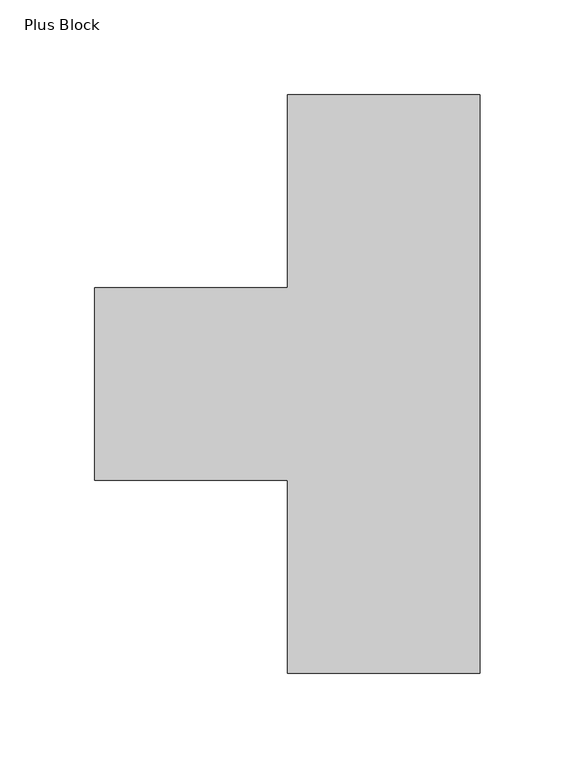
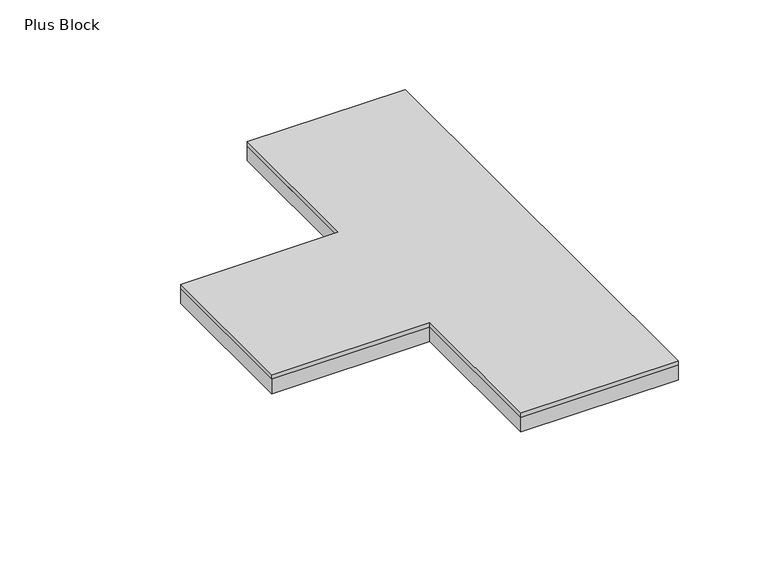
"""IFC4 building model written with IfcOpenShell, lengths in millimetres: proxy geometry, FilzFelt_Plus_Block : Plus Block."""

import ifcopenshell
import ifcopenshell.guid

model = None  # the IFC model being written
_history = None  # IfcOwnerHistory: only IFC2X3 demands one
_inside = {}  # id of a spatial element -> (the spatial element, [elements in it])
_under = {}  # id of a project, library or spatial element -> (it, [spatial elements below it])
_declared = {}  # id of a project -> (the project, [libraries it declares])
_typed = {}  # id of a type object -> (the type object, [elements of that type])
_made_of = {}  # id of a material, layer set ... -> (it, [elements and type objects made of it])


def new_model(schema):
    """Start an empty IFC model of exactly this schema.

    Asked for "IFC4X3", IfcOpenShell would pick the latest addendum, in which some entities
    have other attributes; the version numbers below select the first issue.
    IFC2X3 requires an IfcOwnerHistory on every rooted entity: one is made here for all.
    """
    global model, _history
    if schema == "IFC4X3":
        model = ifcopenshell.file(schema_version=(4, 3, 0, 0))
    else:
        model = ifcopenshell.file(schema=schema)
    _inside.clear()
    _under.clear()
    _declared.clear()
    _typed.clear()
    _made_of.clear()
    _history = None
    if model.schema == "IFC2X3":
        org = make("IfcOrganization", Name="unknown")
        user = make(
            "IfcPersonAndOrganization",
            ThePerson=make("IfcPerson", FamilyName="unknown"),
            TheOrganization=org,
        )
        app = make(
            "IfcApplication",
            ApplicationDeveloper=org,
            Version="unknown",
            ApplicationFullName="unknown",
            ApplicationIdentifier="unknown",
        )
        _history = make(
            "IfcOwnerHistory",
            OwningUser=user,
            OwningApplication=app,
            ChangeAction="ADDED",
            CreationDate=0,
        )
    return model


def make(cls, **values):
    """One entity of the class cls with the attributes given. An attribute that is None is left unset."""
    return model.create_entity(
        cls, **{name: value for name, value in values.items() if value is not None}
    )


def rooted(cls, **values):
    """An entity with a GlobalId (a new one), such as an element, a storey or a relation."""
    return make(cls, GlobalId=ifcopenshell.guid.new(), OwnerHistory=_history, **values)


def si_unit(unit_type, name, prefix=None):
    """IfcSIUnit, for example si_unit("LENGTHUNIT", "METRE", prefix="MILLI")."""
    return make("IfcSIUnit", UnitType=unit_type, Prefix=prefix, Name=name)


def assignment(units):
    """IfcUnitAssignment: the units of a project."""
    return None if units is None else make("IfcUnitAssignment", Units=units)


def point(xyz):
    """IfcCartesianPoint."""
    return None if xyz is None else make("IfcCartesianPoint", Coordinates=xyz)


def direction(xyz):
    """IfcDirection."""
    return None if xyz is None else make("IfcDirection", DirectionRatios=xyz)


def frame(location, z_axis=None, x_axis=None):
    """IfcAxis2Placement3D, a coordinate frame: its origin and axes. An axis left out is left unset."""
    return make(
        "IfcAxis2Placement3D",
        Location=point(location),
        Axis=direction(z_axis),
        RefDirection=direction(x_axis),
    )


def origin():
    """The frame at (0, 0, 0) with its axes left unset."""
    return frame((0.0, 0.0, 0.0))


def origin_with_axes():
    """The frame at (0, 0, 0) with the z axis (0, 0, 1) and the x axis (1, 0, 0) written out."""
    return frame((0.0, 0.0, 0.0), z_axis=(0.0, 0.0, 1.0), x_axis=(1.0, 0.0, 0.0))


def place(relative_to, where):
    """IfcLocalPlacement: puts the frame where relative to a parent placement (None: the world)."""
    return make(
        "IfcLocalPlacement", PlacementRelTo=relative_to, RelativePlacement=where
    )


def context(
    kind, dimensions, precision=None, world=None, true_north=None, identifier=None
):
    """IfcGeometricRepresentationContext, for example the 3D "Model" context."""
    return make(
        "IfcGeometricRepresentationContext",
        ContextIdentifier=identifier,
        ContextType=kind,
        CoordinateSpaceDimension=dimensions,
        Precision=precision,
        WorldCoordinateSystem=world,
        TrueNorth=true_north,
    )


def project(units=None, contexts=None):
    """IfcProject with its units and contexts."""
    return rooted(
        "IfcProject",
        Name="project",
        RepresentationContexts=contexts,
        UnitsInContext=assignment(units),
    )


def spatial(cls, under=None, at=None, **own):
    """A site, building, storey or space (cls), placed at a placement, below another one or the project."""
    s = rooted(cls, ObjectPlacement=at, **own)
    if under is not None:
        _under.setdefault(under.id(), (under, []))[1].append(s)
    return s


def polyline(points):
    """IfcPolyline through the points."""
    return make("IfcPolyline", Points=[point(p) for p in points])


def outline(outer, holes=None, kind="AREA"):
    """IfcArbitraryClosedProfileDef: a profile drawn as a closed curve; with holes, ...WithVoids."""
    if holes is None:
        return make("IfcArbitraryClosedProfileDef", ProfileType=kind, OuterCurve=outer)
    return make(
        "IfcArbitraryProfileDefWithVoids",
        ProfileType=kind,
        OuterCurve=outer,
        InnerCurves=holes,
    )


def extrude(swept, where, along, depth):
    """IfcExtrudedAreaSolid: the profile swept, set in the frame where, extruded along a direction by depth."""
    return make(
        "IfcExtrudedAreaSolid",
        SweptArea=swept,
        Position=where,
        ExtrudedDirection=direction(along),
        Depth=depth,
    )


def shape(context_of_items, identifier, shape_type, items):
    """IfcShapeRepresentation: the items that make up one representation, for example the "Body"."""
    return make(
        "IfcShapeRepresentation",
        ContextOfItems=context_of_items,
        RepresentationIdentifier=identifier,
        RepresentationType=shape_type,
        Items=items,
    )


def source(mapping_origin, context_of_items, identifier, shape_type, items):
    """IfcRepresentationMap: a shape defined once, which mapped items show again and again."""
    return make(
        "IfcRepresentationMap",
        MappingOrigin=mapping_origin,
        MappedRepresentation=shape(context_of_items, identifier, shape_type, items),
    )


def transform(
    local_origin,
    x_axis=None,
    y_axis=None,
    z_axis=None,
    scale=None,
    scale2=None,
    scale3=None,
    uniform=True,
):
    """IfcCartesianTransformationOperator3D, or its non-uniform kind. x_axis, y_axis, z_axis: its Axis1, 2, 3."""
    if uniform:
        return make(
            "IfcCartesianTransformationOperator3D",
            Axis1=direction(x_axis),
            Axis2=direction(y_axis),
            LocalOrigin=point(local_origin),
            Scale=scale,
            Axis3=direction(z_axis),
        )
    return make(
        "IfcCartesianTransformationOperator3DnonUniform",
        Axis1=direction(x_axis),
        Axis2=direction(y_axis),
        LocalOrigin=point(local_origin),
        Scale=scale,
        Axis3=direction(z_axis),
        Scale2=scale2,
        Scale3=scale3,
    )


def mapped(mapping_source, mapping_target):
    """IfcMappedItem: shows the shape of a source again, moved by a transform."""
    return make(
        "IfcMappedItem", MappingSource=mapping_source, MappingTarget=mapping_target
    )


def made_of(thing, what):
    """Note that an element or type object is made of a material, layer set ...; save() writes the relation."""
    if what is not None:
        _made_of.setdefault(what.id(), (what, []))[1].append(thing)
    return thing


def element(
    cls,
    number,
    at=None,
    inside=None,
    cuts=None,
    type_object=None,
    material=None,
    context=None,
    identifier="Body",
    shape_type=None,
    held_by="IfcProductDefinitionShape",
    body=None,
    shapes=None,
    **own,
):
    """One element of the class cls, such as IfcWall. Its Tag is "e" and its number.

    at: its placement. inside: the storey or other place that contains it. cuts: it is an
    opening in that element (IfcRelVoidsElement). A single representation is given by context,
    identifier, shape_type and body (its items); several are given by shapes. held_by: the class
    of the entity that holds the representations. save() writes the other relations.
    """
    e = rooted(cls, Tag="e%d" % number, ObjectPlacement=at, **own)
    if body is not None:
        shapes = [shape(context, identifier, shape_type, body)]
    if shapes is not None:
        e.Representation = make(held_by, Representations=shapes)
    if inside is not None:
        _inside.setdefault(inside.id(), (inside, []))[1].append(e)
    if cuts is not None:
        rooted(
            "IfcRelVoidsElement", RelatingBuildingElement=cuts, RelatedOpeningElement=e
        )
    if type_object is not None:
        _typed.setdefault(type_object.id(), (type_object, []))[1].append(e)
    return made_of(e, material)


def aggregate(whole, parts):
    """IfcRelAggregates: a whole, such as a stair, and the parts it consists of."""
    return rooted("IfcRelAggregates", RelatingObject=whole, RelatedObjects=parts)


def save(model, path):
    """Write the relations noted so far, then the file.

    IfcRelAggregates (storeys below a building ...), IfcRelContainedInSpatialStructure (elements
    in a storey), IfcRelDefinesByType, IfcRelAssociatesMaterial and IfcRelDeclares: one each for
    every whole, place, type object, material and project.
    """
    for whole, parts in _under.values():
        aggregate(whole, parts)
    for where, things in _inside.values():
        rooted(
            "IfcRelContainedInSpatialStructure",
            RelatedElements=things,
            RelatingStructure=where,
        )
    for kind, things in _typed.values():
        rooted("IfcRelDefinesByType", RelatedObjects=things, RelatingType=kind)
    for what, things in _made_of.values():
        rooted("IfcRelAssociatesMaterial", RelatedObjects=things, RelatingMaterial=what)
    for by, libraries in _declared.values():
        rooted("IfcRelDeclares", RelatingContext=by, RelatedDefinitions=libraries)
    model.write(path)


def plus_block_fa46ec61(model_context):
    return source(origin(), model_context, "Body", "SweptSolid", [
        extrude(outline(polyline([(50.8333333, -152.5), (-50.8333333, -152.5), (-50.8333333, -50.8333333), (-152.5, -50.8333333), (-152.5, 50.8333333), (-50.8333333, 50.8333333), (-50.8333333, 152.5), (50.8333333, 152.5), (50.8333333, -152.5)])), frame((0.0, 0.0, 10.0210937), z_axis=(0.0, 0.0, 1.0), x_axis=(1.0, 0.0, 0.0)), (0.0, 0.0, 1.0), 2.9765625),
        extrude(outline(polyline([(-152.5, -50.8333333), (-152.5, 50.8333333), (-50.8333333, 50.8333333), (-50.8333333, 152.5), (50.8333333, 152.5), (50.8333333, -152.5), (-50.8333333, -152.5), (-50.8333333, -50.8333333), (-152.5, -50.8333333)])), origin_with_axes(), (0.0, 0.0, 1.0), 10.0210938),
    ])


if __name__ == "__main__":
    model = new_model("IFC4")
    model_context = context("Model", 3, world=origin())
    ifc_project = project(units=[si_unit("LENGTHUNIT", "METRE", prefix="MILLI")], contexts=[model_context])
    site = spatial("IfcSite", under=ifc_project)
    building = spatial("IfcBuilding", under=site)
    placement = place(None, origin())
    plus_block_shape = plus_block_fa46ec61(model_context)
    element("IfcBuildingElementProxy", 1, Name="FilzFelt_Plus_Block : Plus Block", ObjectType="FilzFelt_Plus_Block : Plus Block", at=placement, inside=building, context=model_context, shape_type="MappedRepresentation", body=[
        mapped(plus_block_shape, transform((0.0, 0.0, 0.0), x_axis=(1.0, 0.0, 0.0), y_axis=(0.0, 1.0, 0.0), z_axis=(0.0, 0.0, 1.0))),
    ])
    save(model, "model.ifc")
